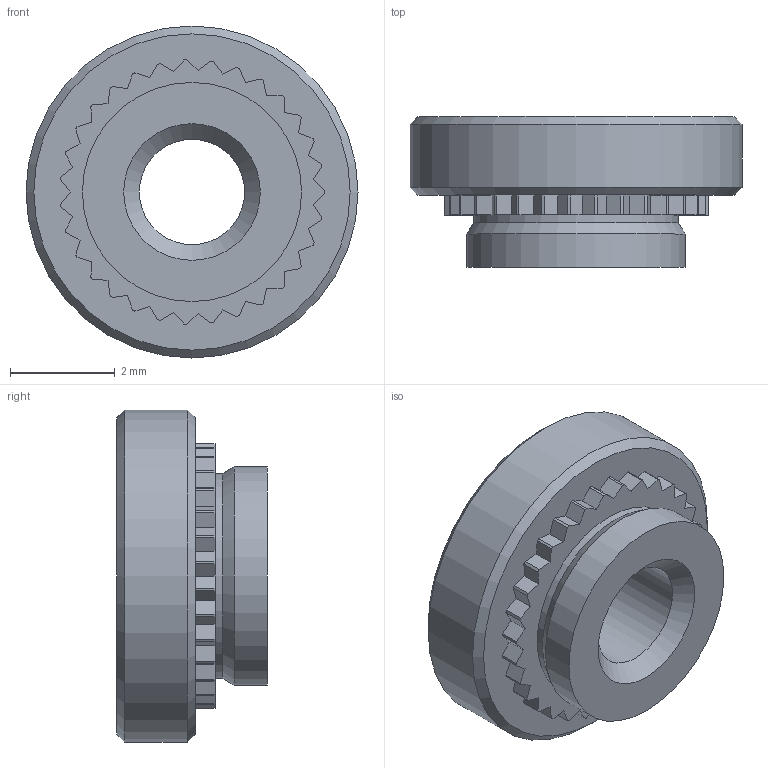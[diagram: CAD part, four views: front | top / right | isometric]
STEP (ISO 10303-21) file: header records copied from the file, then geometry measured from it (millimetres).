
FILE_DESCRIPTION(/* description */ (''),/* implementation_level */ '2;1');
FILE_NAME(/* name */ 'C:\Users\keval.kumar\Desktop\Fastit\Clinch nut\M2.5\Clinch Nut_M2.5_2.stp',/* time_stamp */ '2024-03-14T09:29:00+06:00',/* author */ ('keval.kumar'),/* organization */ (''),/* preprocessor_version */ 'ST-DEVELOPER v18.1',/* originating_system */ 'Autodesk Inventor 2022',/* authorisation */ '');
FILE_SCHEMA (('AUTOMOTIVE_DESIGN { 1 0 10303 214 3 1 1 }'));
Length unit declared in the file: millimetre
Products named in the file (1): Clinch Nut_M3_2
Bounding box: 6.35 x 2.88 x 6.35 mm (x, y, z)
Volume: 57.7 mm3; surface area: 122.4 mm2
Topology: 1 solids, 1 shells, 106 faces, 303 edges, 201 vertices
Faces by surface type: plane 66, cylinder 35, cone 5
Full cylindrical faces by diameter (mm): 2.013 x1, 3.91 x1, 4.19 x1, 6.35 x1
Entity records: 3507 total; most frequent: CARTESIAN_POINT 611, ORIENTED_EDGE 606, DIRECTION 594, EDGE_CURVE 303, LINE 226, VECTOR 226, VERTEX_POINT 201, AXIS2_PLACEMENT_3D 184
